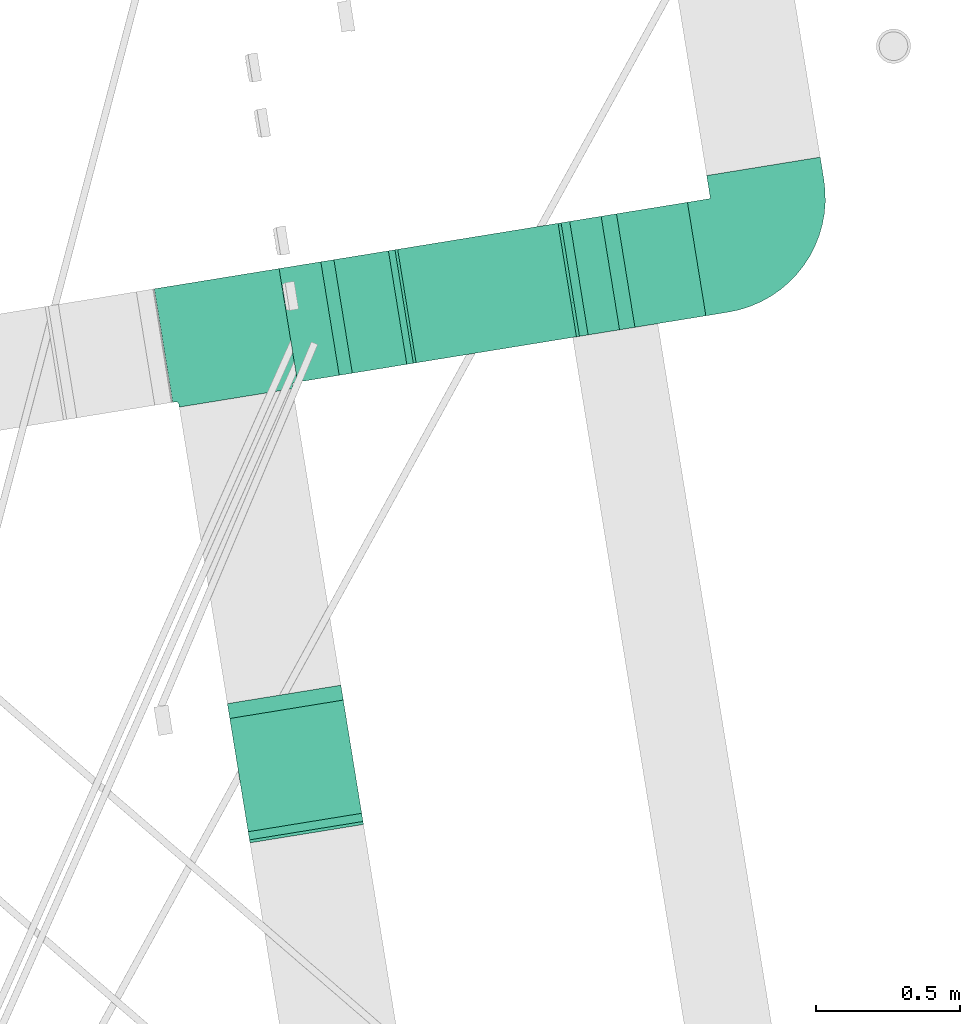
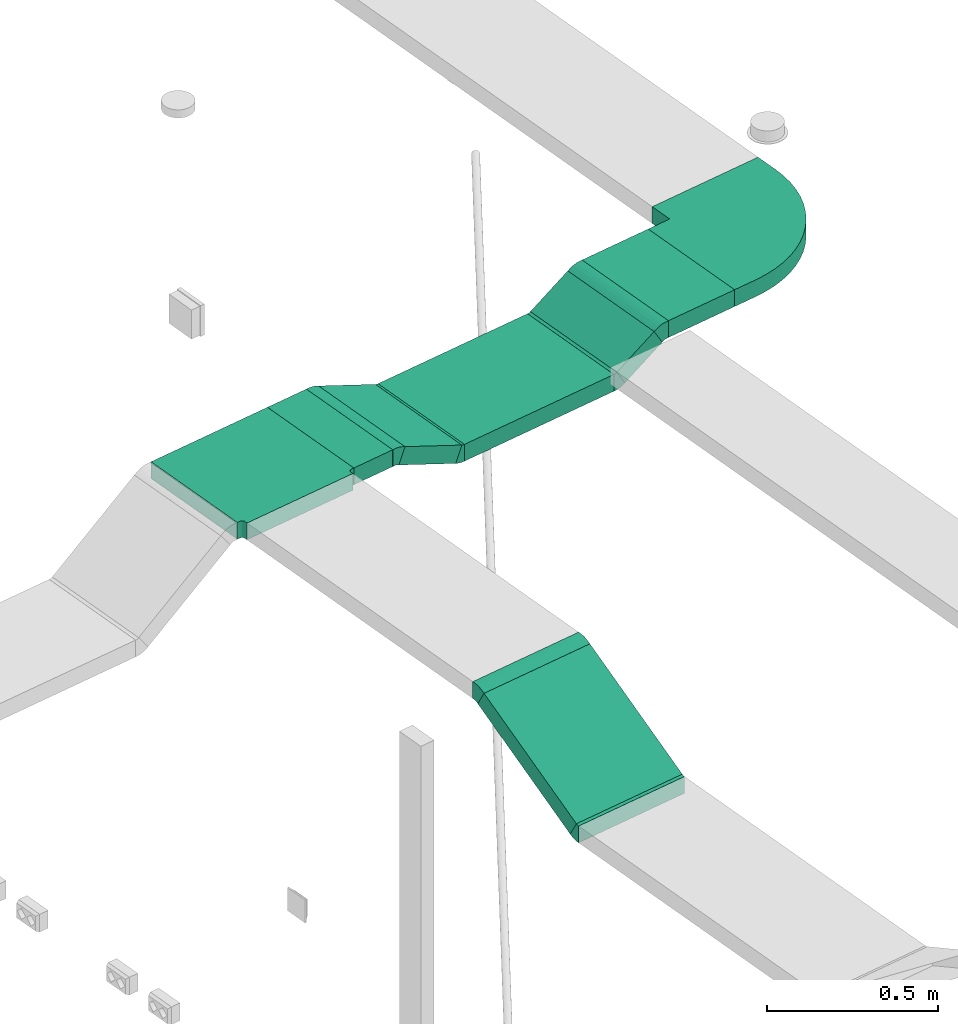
# One storey, part 4 of 33: 8 flow fittings, 6 flow segments.
"""IFC2X3 building model written with IfcOpenShell, lengths in millimetres."""

import ifcopenshell
import ifcopenshell.guid

model = None  # the IFC model being written
_history = None  # IfcOwnerHistory: only IFC2X3 demands one
_inside = {}  # id of a spatial element -> (the spatial element, [elements in it])
_under = {}  # id of a project, library or spatial element -> (it, [spatial elements below it])
_declared = {}  # id of a project -> (the project, [libraries it declares])
_typed = {}  # id of a type object -> (the type object, [elements of that type])
_made_of = {}  # id of a material, layer set ... -> (it, [elements and type objects made of it])


def new_model(schema):
    """Start an empty IFC model of exactly this schema.

    Asked for "IFC4X3", IfcOpenShell would pick the latest addendum, in which some entities
    have other attributes; the version numbers below select the first issue.
    IFC2X3 requires an IfcOwnerHistory on every rooted entity: one is made here for all.
    """
    global model, _history
    if schema == "IFC4X3":
        model = ifcopenshell.file(schema_version=(4, 3, 0, 0))
    else:
        model = ifcopenshell.file(schema=schema)
    _inside.clear()
    _under.clear()
    _declared.clear()
    _typed.clear()
    _made_of.clear()
    _history = None
    if model.schema == "IFC2X3":
        org = make("IfcOrganization", Name="unknown")
        user = make(
            "IfcPersonAndOrganization",
            ThePerson=make("IfcPerson", FamilyName="unknown"),
            TheOrganization=org,
        )
        app = make(
            "IfcApplication",
            ApplicationDeveloper=org,
            Version="unknown",
            ApplicationFullName="unknown",
            ApplicationIdentifier="unknown",
        )
        _history = make(
            "IfcOwnerHistory",
            OwningUser=user,
            OwningApplication=app,
            ChangeAction="ADDED",
            CreationDate=0,
        )
    return model


def make(cls, **values):
    """One entity of the class cls with the attributes given. An attribute that is None is left unset."""
    return model.create_entity(
        cls, **{name: value for name, value in values.items() if value is not None}
    )


def entity(cls, *values):
    """Any entity or typed value of the class cls, its attributes in the order of the schema. None: left unset."""
    e = model.create_entity(cls)
    for i, value in enumerate(values):
        if value is not None:
            e[i] = value
    return e


def rooted(cls, **values):
    """An entity with a GlobalId (a new one), such as an element, a storey or a relation."""
    return make(cls, GlobalId=ifcopenshell.guid.new(), OwnerHistory=_history, **values)


def si_unit(unit_type, name, prefix=None):
    """IfcSIUnit, for example si_unit("LENGTHUNIT", "METRE", prefix="MILLI")."""
    return make("IfcSIUnit", UnitType=unit_type, Prefix=prefix, Name=name)


def converted_unit(unit_type, name, factor, base, dimensions=None, offset=None):
    """IfcConversionBasedUnit, such as the inch: factor (a typed value) times the base unit."""
    return make(
        "IfcConversionBasedUnit"
        if offset is None
        else "IfcConversionBasedUnitWithOffset",
        ConversionOffset=offset,
        Dimensions=None
        if dimensions is None
        else entity("IfcDimensionalExponents", *dimensions),
        UnitType=unit_type,
        Name=name,
        ConversionFactor=make(
            "IfcMeasureWithUnit", ValueComponent=factor, UnitComponent=base
        ),
    )


def derived_unit(unit_type, elements):
    """IfcDerivedUnit: a product of units, each with its exponent."""
    return make(
        "IfcDerivedUnit",
        Elements=[
            make("IfcDerivedUnitElement", Unit=unit, Exponent=power)
            for unit, power in elements
        ],
        UnitType=unit_type,
    )


def assignment(units):
    """IfcUnitAssignment: the units of a project."""
    return None if units is None else make("IfcUnitAssignment", Units=units)


def point(xyz):
    """IfcCartesianPoint."""
    return None if xyz is None else make("IfcCartesianPoint", Coordinates=xyz)


def direction(xyz):
    """IfcDirection."""
    return None if xyz is None else make("IfcDirection", DirectionRatios=xyz)


def frame(location, z_axis=None, x_axis=None):
    """IfcAxis2Placement3D, a coordinate frame: its origin and axes. An axis left out is left unset."""
    return make(
        "IfcAxis2Placement3D",
        Location=point(location),
        Axis=direction(z_axis),
        RefDirection=direction(x_axis),
    )


def frame_2d(location, x_axis=None):
    """IfcAxis2Placement2D, a coordinate frame in the plane: its origin and x axis."""
    return make(
        "IfcAxis2Placement2D", Location=point(location), RefDirection=direction(x_axis)
    )


def origin():
    """The frame at (0, 0, 0) with its axes left unset."""
    return frame((0.0, 0.0, 0.0))


def origin_with_axes():
    """The frame at (0, 0, 0) with the z axis (0, 0, 1) and the x axis (1, 0, 0) written out."""
    return frame((0.0, 0.0, 0.0), z_axis=(0.0, 0.0, 1.0), x_axis=(1.0, 0.0, 0.0))


def origin_2d_with_axis():
    """The frame at (0, 0) in the plane with the x axis (1, 0) written out."""
    return frame_2d((0.0, 0.0), x_axis=(1.0, 0.0))


def place(relative_to, where):
    """IfcLocalPlacement: puts the frame where relative to a parent placement (None: the world)."""
    return make(
        "IfcLocalPlacement", PlacementRelTo=relative_to, RelativePlacement=where
    )


def context(
    kind, dimensions, precision=None, world=None, true_north=None, identifier=None
):
    """IfcGeometricRepresentationContext, for example the 3D "Model" context."""
    return make(
        "IfcGeometricRepresentationContext",
        ContextIdentifier=identifier,
        ContextType=kind,
        CoordinateSpaceDimension=dimensions,
        Precision=precision,
        WorldCoordinateSystem=world,
        TrueNorth=true_north,
    )


def subcontext(parent, identifier, kind, view, scale=None):
    """IfcGeometricRepresentationSubContext, for example "Body" below "Model"."""
    return make(
        "IfcGeometricRepresentationSubContext",
        ContextIdentifier=identifier,
        ContextType=kind,
        ParentContext=parent,
        TargetScale=scale,
        TargetView=view,
    )


def project(units=None, contexts=None):
    """IfcProject with its units and contexts."""
    return rooted(
        "IfcProject",
        Name="project",
        RepresentationContexts=contexts,
        UnitsInContext=assignment(units),
    )


def spatial(cls, under=None, at=None, **own):
    """A site, building, storey or space (cls), placed at a placement, below another one or the project."""
    s = rooted(cls, ObjectPlacement=at, **own)
    if under is not None:
        _under.setdefault(under.id(), (under, []))[1].append(s)
    return s


def polyline(points):
    """IfcPolyline through the points."""
    return make("IfcPolyline", Points=[point(p) for p in points])


def circle_curve(where, radius):
    """IfcCircle in the frame where."""
    return make("IfcCircle", Position=where, Radius=radius)


def parameter(value):
    """IfcParameterValue: where a trimmed curve begins or ends, as a parameter of its basis curve."""
    return model.create_entity("IfcParameterValue", value)


def trimmed(basis, trim1, trim2, sense, master):
    """IfcTrimmedCurve: the piece of a basis curve between two trims."""
    return make(
        "IfcTrimmedCurve",
        BasisCurve=basis,
        Trim1=trim1,
        Trim2=trim2,
        SenseAgreement=sense,
        MasterRepresentation=master,
    )


def segment(curve, same_sense, transition):
    """IfcCompositeCurveSegment."""
    return make(
        "IfcCompositeCurveSegment",
        Transition=transition,
        SameSense=same_sense,
        ParentCurve=curve,
    )


def composite_curve(segments, self_intersect=None):
    """IfcCompositeCurve: segments joined end to end."""
    return make("IfcCompositeCurve", Segments=segments, SelfIntersect=self_intersect)


def profile(cls, at=None, kind="AREA", **sizes):
    """A parametric profile (cls). Its sizes go by their IFC names, for example OverallWidth=200.0."""
    return make(cls, ProfileType=kind, Position=at, **sizes)


def rectangle(**sizes):
    """IfcRectangleProfileDef."""
    return profile("IfcRectangleProfileDef", **sizes)


def outline(outer, holes=None, kind="AREA"):
    """IfcArbitraryClosedProfileDef: a profile drawn as a closed curve; with holes, ...WithVoids."""
    if holes is None:
        return make("IfcArbitraryClosedProfileDef", ProfileType=kind, OuterCurve=outer)
    return make(
        "IfcArbitraryProfileDefWithVoids",
        ProfileType=kind,
        OuterCurve=outer,
        InnerCurves=holes,
    )


def extrude(swept, where, along, depth):
    """IfcExtrudedAreaSolid: the profile swept, set in the frame where, extruded along a direction by depth."""
    return make(
        "IfcExtrudedAreaSolid",
        SweptArea=swept,
        Position=where,
        ExtrudedDirection=direction(along),
        Depth=depth,
    )


def shape(context_of_items, identifier, shape_type, items):
    """IfcShapeRepresentation: the items that make up one representation, for example the "Body"."""
    return make(
        "IfcShapeRepresentation",
        ContextOfItems=context_of_items,
        RepresentationIdentifier=identifier,
        RepresentationType=shape_type,
        Items=items,
    )


def source(mapping_origin, context_of_items, identifier, shape_type, items):
    """IfcRepresentationMap: a shape defined once, which mapped items show again and again."""
    return make(
        "IfcRepresentationMap",
        MappingOrigin=mapping_origin,
        MappedRepresentation=shape(context_of_items, identifier, shape_type, items),
    )


def transform(
    local_origin,
    x_axis=None,
    y_axis=None,
    z_axis=None,
    scale=None,
    scale2=None,
    scale3=None,
    uniform=True,
):
    """IfcCartesianTransformationOperator3D, or its non-uniform kind. x_axis, y_axis, z_axis: its Axis1, 2, 3."""
    if uniform:
        return make(
            "IfcCartesianTransformationOperator3D",
            Axis1=direction(x_axis),
            Axis2=direction(y_axis),
            LocalOrigin=point(local_origin),
            Scale=scale,
            Axis3=direction(z_axis),
        )
    return make(
        "IfcCartesianTransformationOperator3DnonUniform",
        Axis1=direction(x_axis),
        Axis2=direction(y_axis),
        LocalOrigin=point(local_origin),
        Scale=scale,
        Axis3=direction(z_axis),
        Scale2=scale2,
        Scale3=scale3,
    )


def mapped(mapping_source, mapping_target):
    """IfcMappedItem: shows the shape of a source again, moved by a transform."""
    return make(
        "IfcMappedItem", MappingSource=mapping_source, MappingTarget=mapping_target
    )


def material(Name=None, Category=None):
    """IfcMaterial."""
    return make("IfcMaterial", Name=Name, Category=Category)


def made_of(thing, what):
    """Note that an element or type object is made of a material, layer set ...; save() writes the relation."""
    if what is not None:
        _made_of.setdefault(what.id(), (what, []))[1].append(thing)
    return thing


def type_object(cls, material=None, **own):
    """A type object (cls), such as IfcWallType, which elements share."""
    return made_of(rooted(cls, **own), material)


def element(
    cls,
    number,
    at=None,
    inside=None,
    cuts=None,
    type_object=None,
    material=None,
    context=None,
    identifier="Body",
    shape_type=None,
    held_by="IfcProductDefinitionShape",
    body=None,
    shapes=None,
    **own,
):
    """One element of the class cls, such as IfcWall. Its Tag is "e" and its number.

    at: its placement. inside: the storey or other place that contains it. cuts: it is an
    opening in that element (IfcRelVoidsElement). A single representation is given by context,
    identifier, shape_type and body (its items); several are given by shapes. held_by: the class
    of the entity that holds the representations. save() writes the other relations.
    """
    e = rooted(cls, Tag="e%d" % number, ObjectPlacement=at, **own)
    if body is not None:
        shapes = [shape(context, identifier, shape_type, body)]
    if shapes is not None:
        e.Representation = make(held_by, Representations=shapes)
    if inside is not None:
        _inside.setdefault(inside.id(), (inside, []))[1].append(e)
    if cuts is not None:
        rooted(
            "IfcRelVoidsElement", RelatingBuildingElement=cuts, RelatedOpeningElement=e
        )
    if type_object is not None:
        _typed.setdefault(type_object.id(), (type_object, []))[1].append(e)
    return made_of(e, material)


def aggregate(whole, parts):
    """IfcRelAggregates: a whole, such as a stair, and the parts it consists of."""
    return rooted("IfcRelAggregates", RelatingObject=whole, RelatedObjects=parts)


def save(model, path):
    """Write the relations noted so far, then the file.

    IfcRelAggregates (storeys below a building ...), IfcRelContainedInSpatialStructure (elements
    in a storey), IfcRelDefinesByType, IfcRelAssociatesMaterial and IfcRelDeclares: one each for
    every whole, place, type object, material and project.
    """
    for whole, parts in _under.values():
        aggregate(whole, parts)
    for where, things in _inside.values():
        rooted(
            "IfcRelContainedInSpatialStructure",
            RelatedElements=things,
            RelatingStructure=where,
        )
    for kind, things in _typed.values():
        rooted("IfcRelDefinesByType", RelatedObjects=things, RelatingType=kind)
    for what, things in _made_of.values():
        rooted("IfcRelAssociatesMaterial", RelatedObjects=things, RelatingMaterial=what)
    for by, libraries in _declared.values():
        rooted("IfcRelDeclares", RelatingContext=by, RelatedDefinitions=libraries)
    model.write(path)


model = new_model("IFC2X3")

# Units and contexts
plan_context = context("Plan", 3, precision=1e-05, world=origin_with_axes())
model_context = context("Model", 3, precision=0.01, world=origin(), true_north=direction((6.12323399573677e-17, 1.0)))
body_context = subcontext(model_context, "Body", "Model", "MODEL_VIEW")
ifc_project = project(units=[converted_unit("PLANEANGLEUNIT", "DEGREE", entity("IfcPositiveLengthMeasure", 0.0174532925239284), si_unit("PLANEANGLEUNIT", "RADIAN"), dimensions=[0, 0, 0, 0, 0, 0, 0]), si_unit("AREAUNIT", "SQUARE_METRE"), si_unit("LENGTHUNIT", "METRE", prefix="MILLI"), si_unit("MASSUNIT", "GRAM", prefix="KILO"), si_unit("POWERUNIT", "WATT"), si_unit("PRESSUREUNIT", "PASCAL", prefix="KILO"), si_unit("FORCEUNIT", "NEWTON", prefix="KILO"), si_unit("ELECTRICVOLTAGEUNIT", "VOLT"), si_unit("ELECTRICCURRENTUNIT", "AMPERE"), si_unit("THERMODYNAMICTEMPERATUREUNIT", "DEGREE_CELSIUS"), si_unit("TIMEUNIT", "SECOND"), si_unit("VOLUMEUNIT", "CUBIC_METRE"), derived_unit("LINEARVELOCITYUNIT", [(si_unit("LENGTHUNIT", "METRE"), 1), (si_unit("TIMEUNIT", "SECOND"), -1)]), derived_unit("VOLUMETRICFLOWRATEUNIT", [(si_unit("VOLUMEUNIT", "CUBIC_METRE"), 1), (si_unit("TIMEUNIT", "SECOND"), -1)]), derived_unit("THERMALTRANSMITTANCEUNIT", [(si_unit("POWERUNIT", "WATT"), 1), (si_unit("THERMODYNAMICTEMPERATUREUNIT", "KELVIN"), -1), (si_unit("AREAUNIT", "SQUARE_METRE"), -1)]), derived_unit("SOUNDPRESSUREUNIT", [(si_unit("PRESSUREUNIT", "PASCAL"), 1)])], contexts=[model_context, plan_context])

# Site, building, storey
site_placement = place(None, frame((-0.219946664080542, 0.12226179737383, 0.0), z_axis=(0.0, 0.0, 1.0), x_axis=(-0.160236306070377, 0.987078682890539, 0.0)))
site = spatial("IfcSite", under=ifc_project, at=site_placement, Name="Default", CompositionType="ELEMENT")
building_placement = place(site_placement, origin_with_axes())
building = spatial("IfcBuilding", under=site, at=building_placement, CompositionType="ELEMENT")
storey_placement = place(building_placement, frame((0.0, 0.0, 59000.0), z_axis=(0.0, 0.0, 1.0), x_axis=(1.0, 0.0, 0.0)))
storey = spatial("IfcBuildingStorey", under=building, at=storey_placement, Name="Nivå F", CompositionType="ELEMENT", Elevation=59000.0)

# Flow fittings
ifc_material = material(Name="<Unnamed>")
cable_carrier_fitting_type_1 = type_object("IfcCableCarrierFittingType", Name="M_Ladder Horizontal Bend:Standard", PredefinedType="NOTDEFINED", material=ifc_material)
shared_shape_1 = source(origin(), body_context, "Body", "SweptSolid", [
    extrude(outline(composite_curve([segment(polyline([(-160.500000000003, -320.499999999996), (-80.5000000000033, -320.499999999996)]), True, "CONTINUOUS"), segment(trimmed(circle_curve(frame_2d((-80.4999999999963, 80.5000000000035), x_axis=(0.0, -1.0)), 401.0), [parameter(0.0)], [parameter(90.0)], True, "PARAMETER"), True, "CONTINUOUS"), segment(polyline([(320.500000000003, 80.4999999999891), (320.500000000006, 160.499999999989)]), True, "CONTINUOUS"), segment(polyline([(320.500000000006, 160.499999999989), (-79.4999999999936, 160.500000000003)]), True, "CONTINUOUS"), segment(polyline([(-79.4999999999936, 160.500000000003), (-79.4999999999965, 80.5000000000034)]), True, "CONTINUOUS"), segment(trimmed(circle_curve(frame_2d((-80.4999999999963, 80.5000000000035), x_axis=(0.0, -1.0)), 0.999999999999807), [parameter(0.0)], [parameter(90.0)], True, "PARAMETER"), False, "CONTINUOUS"), segment(polyline([(-80.5000000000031, 79.5000000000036), (-160.500000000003, 79.5000000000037)]), True, "CONTINUOUS"), segment(polyline([(-160.500000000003, 79.5000000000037), (-160.500000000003, -320.499999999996)]), True, "CONTINUOUS")], self_intersect=False)), frame((-120.499999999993, 120.499999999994, -30.0)), (0.0, 0.0, 1.0), 60.0000000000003),
])
flow_fitting_1_placement = place(storey_placement, frame((775476.560546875, -506177.487792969, 2900.0), z_axis=(0.0, 0.0, 1.0), x_axis=(0.0, -1.0, 0.0)))
element("IfcFlowFitting", 1, at=flow_fitting_1_placement, inside=storey, type_object=cable_carrier_fitting_type_1, material=ifc_material, Name="M_Ladder Horizontal Bend:Standard", ObjectType="M_Ladder Horizontal Bend:Standard", context=body_context, shape_type="MappedRepresentation", body=[
    mapped(shared_shape_1, transform((0.0, 0.0, 0.0), scale=1.0)),
])
cable_carrier_fitting_type_2 = type_object("IfcCableCarrierFittingType", Name="MC_Ladder Horizontal Tee:10mm Radius", PredefinedType="NOTDEFINED", material=ifc_material)
shared_shape_2 = source(origin(), body_context, "Body", "SweptSolid", [
    extrude(outline(composite_curve([segment(polyline([(84.0, -200.0), (94.0, -200.0)]), True, "CONTINUOUS"), segment(polyline([(94.0, -200.0), (94.0, 200.0)]), True, "CONTINUOUS"), segment(polyline([(94.0, 200.0), (84.0, 200.0)]), True, "CONTINUOUS"), segment(trimmed(circle_curve(frame_2d((84.0, 210.0), x_axis=(0.0, 1.0)), 10.0), [parameter(89.9999999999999)], [parameter(180.0)], True, "PARAMETER"), False, "CONTINUOUS"), segment(polyline([(74.0, 210.0), (74.0, 220.0)]), True, "CONTINUOUS"), segment(polyline([(74.0, 220.0), (-326.0, 220.0)]), True, "CONTINUOUS"), segment(polyline([(-326.0, 220.0), (-326.0, -220.0)]), True, "CONTINUOUS"), segment(polyline([(-326.0, -220.0), (74.0, -220.0)]), True, "CONTINUOUS"), segment(polyline([(74.0, -220.0), (74.0, -210.0)]), True, "CONTINUOUS"), segment(trimmed(circle_curve(frame_2d((84.0, -210.0), x_axis=(0.0, 1.0)), 10.0), [parameter(360.0)], [parameter(89.9999999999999)], True, "PARAMETER"), False, "CONTINUOUS")], self_intersect=False)), frame((0.0, -126.0, -30.0), z_axis=(0.0, 0.0, 1.0), x_axis=(0.0, -1.0, 0.0)), (0.0, 0.0, 1.0), 60.0),
])
flow_fitting_2_placement = place(storey_placement, frame((775476.560546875, -504237.483203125, 2900.0), z_axis=(0.0, 0.0, 1.0), x_axis=(0.0, -1.0, 0.0)))
element("IfcFlowFitting", 2, at=flow_fitting_2_placement, inside=storey, type_object=cable_carrier_fitting_type_2, material=ifc_material, Name="MC_Ladder Horizontal Tee:10mm Radius", ObjectType="MC_Ladder Horizontal Tee:10mm Radius", context=body_context, shape_type="MappedRepresentation", body=[
    mapped(shared_shape_2, transform((0.0, 0.0, 0.0), scale=1.0)),
])
cable_carrier_fitting_type_3 = type_object("IfcCableCarrierFittingType", Name="MC_Ladder Vertical Outside Bend:Standard 10mm", PredefinedType="NOTDEFINED", material=ifc_material)
shared_shape_3 = source(origin(), body_context, "Body", "SweptSolid", [
    extrude(outline(composite_curve([segment(polyline([(-19.2895671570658, -33.6520305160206), (-9.28956715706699, -33.6520305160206)]), True, "CONTINUOUS"), segment(trimmed(circle_curve(frame_2d((-9.28956715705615, 36.347969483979), x_axis=(0.0, -1.0)), 69.9999999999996), [parameter(0.0)], [parameter(28.6727696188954)], True, "PARAMETER"), True, "CONTINUOUS"), segment(polyline([(24.2968928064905, -25.0682312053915), (33.0706357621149, -20.2701654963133)]), True, "CONTINUOUS"), segment(polyline([(33.0706357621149, -20.2701654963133), (4.28224150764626, 32.3722922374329)]), True, "CONTINUOUS"), segment(polyline([(4.28224150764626, 32.3722922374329), (-4.49150144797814, 27.5742265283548)]), True, "CONTINUOUS"), segment(trimmed(circle_curve(frame_2d((-9.28956715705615, 36.347969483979), x_axis=(0.0, -1.0)), 9.99999999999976), [parameter(0.0)], [parameter(28.6727696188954)], True, "PARAMETER"), False, "CONTINUOUS"), segment(polyline([(-9.28956715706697, 26.3479694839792), (-19.2895671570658, 26.3479694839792)]), True, "CONTINUOUS"), segment(polyline([(-19.2895671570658, 26.3479694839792), (-19.2895671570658, -33.6520305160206)]), True, "CONTINUOUS")], self_intersect=False)), frame((-0.933361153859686, 3.65203051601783, -200.0)), (0.0, 0.0, 1.0), 400.0),
])
flow_fitting_3_placement = place(storey_placement, frame((774191.436127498, -504237.483203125, 2900.0), z_axis=(0.0, -1.0, 0.0), x_axis=(-1.0, 0.0, 0.0)))
element("IfcFlowFitting", 3, at=flow_fitting_3_placement, inside=storey, type_object=cable_carrier_fitting_type_3, material=ifc_material, Name="MC_Ladder Vertical Outside Bend:Standard 10mm", ObjectType="MC_Ladder Vertical Outside Bend:Standard 10mm", context=body_context, shape_type="MappedRepresentation", body=[
    mapped(shared_shape_3, transform((0.0, 0.0, 0.0), scale=1.0)),
])
cable_carrier_fitting_type_4 = type_object("IfcCableCarrierFittingType", Name="MC_Ladder Vertical Inside Bend_Short:Standard 10mm", PredefinedType="NOTDEFINED", material=ifc_material)
shared_shape_4 = source(origin(), body_context, "Body", "SweptSolid", [
    extrude(outline(composite_curve([segment(polyline([(-12.5041621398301, -32.8123690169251), (-9.5041621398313, -32.8123690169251)]), True, "CONTINUOUS"), segment(trimmed(circle_curve(frame_2d((-9.50416213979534, 37.1876309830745), x_axis=(0.0, -1.0)), 69.9999999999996), [parameter(0.0)], [parameter(28.6727696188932)], True, "PARAMETER"), True, "CONTINUOUS"), segment(polyline([(24.0822978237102, -24.2285697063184), (26.7144207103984, -22.7891499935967)]), True, "CONTINUOUS"), segment(polyline([(26.7144207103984, -22.7891499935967), (-2.07397354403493, 29.8533077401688)]), True, "CONTINUOUS"), segment(polyline([(-2.07397354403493, 29.8533077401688), (-4.70609643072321, 28.4138880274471)]), True, "CONTINUOUS"), segment(trimmed(circle_curve(frame_2d((-9.50416213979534, 37.1876309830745), x_axis=(0.0, -1.0)), 9.99999999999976), [parameter(0.0)], [parameter(28.6727696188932)], True, "PARAMETER"), False, "CONTINUOUS"), segment(polyline([(-9.50416213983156, 27.1876309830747), (-12.5041621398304, 27.1876309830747)]), True, "CONTINUOUS"), segment(polyline([(-12.5041621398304, 27.1876309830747), (-12.5041621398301, -32.8123690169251)]), True, "CONTINUOUS")], self_intersect=False)), frame((-0.718766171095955, 2.81236901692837, -200.0)), (0.0, 0.0, 1.0), 400.0),
])
flow_fitting_4_placement = place(storey_placement, frame((773734.286127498, -504237.483203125, 2650.0), z_axis=(0.0, -1.0, 0.0), x_axis=(1.0, 0.0, 0.0)))
element("IfcFlowFitting", 4, at=flow_fitting_4_placement, inside=storey, type_object=cable_carrier_fitting_type_4, material=ifc_material, Name="MC_Ladder Vertical Inside Bend_Short:Standard 10mm", ObjectType="MC_Ladder Vertical Inside Bend_Short:Standard 10mm", context=body_context, shape_type="MappedRepresentation", body=[
    mapped(shared_shape_4, transform((0.0, 0.0, 0.0), scale=1.0)),
])
cable_carrier_fitting_type_5 = type_object("IfcCableCarrierFittingType", Name="MC_Ladder Vertical Outside Bend:Standard 10mm", PredefinedType="NOTDEFINED", material=ifc_material)
shared_shape_5 = source(origin(), body_context, "Body", "SweptSolid", [
    extrude(outline(composite_curve([segment(polyline([(-19.7964043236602, -34.0297639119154), (-9.79640432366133, -34.0297639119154)]), True, "CONTINUOUS"), segment(trimmed(circle_curve(frame_2d((-9.7964043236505, 35.9702360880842), x_axis=(0.0, -1.0)), 69.9999999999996), [parameter(0.0)], [parameter(30.4697289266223)], True, "PARAMETER"), True, "CONTINUOUS"), segment(polyline([(25.6994104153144, -24.3625670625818), (34.3183822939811, -19.2917363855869)]), True, "CONTINUOUS"), segment(polyline([(34.3183822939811, -19.2917363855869), (3.89339823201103, 32.4220948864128)]), True, "CONTINUOUS"), segment(polyline([(3.89339823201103, 32.4220948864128), (-4.72557364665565, 27.3512642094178)]), True, "CONTINUOUS"), segment(trimmed(circle_curve(frame_2d((-9.7964043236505, 35.9702360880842), x_axis=(0.0, -1.0)), 9.99999999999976), [parameter(0.0)], [parameter(30.4697289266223)], True, "PARAMETER"), False, "CONTINUOUS"), segment(polyline([(-9.79640432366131, 25.9702360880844), (-19.7964043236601, 25.9702360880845)]), True, "CONTINUOUS"), segment(polyline([(-19.7964043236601, 25.9702360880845), (-19.7964043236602, -34.0297639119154)]), True, "CONTINUOUS")], self_intersect=False)), frame((-1.09749617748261, 4.02976391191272, -200.0)), (0.0, 0.0, 1.0), 400.0),
])
flow_fitting_5_placement = place(storey_placement, frame((775476.560546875, -505625.593892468, 2900.0), z_axis=(-1.0, 0.0, 0.0), x_axis=(0.0, 1.0, 0.0)))
element("IfcFlowFitting", 5, at=flow_fitting_5_placement, inside=storey, type_object=cable_carrier_fitting_type_5, material=ifc_material, Name="MC_Ladder Vertical Outside Bend:Standard 10mm", ObjectType="MC_Ladder Vertical Outside Bend:Standard 10mm", context=body_context, shape_type="MappedRepresentation", body=[
    mapped(shared_shape_5, transform((0.0, 0.0, 0.0), scale=1.0)),
])
cable_carrier_fitting_type_6 = type_object("IfcCableCarrierFittingType", Name="MC_Ladder Vertical Inside Bend_Short:Standard 10mm", PredefinedType="NOTDEFINED", material=ifc_material)
shared_shape_6 = source(origin(), body_context, "Body", "SweptSolid", [
    extrude(outline(composite_curve([segment(polyline([(-13.0380842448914, -33.1423685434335), (-10.0380842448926, -33.1423685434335)]), True, "CONTINUOUS"), segment(trimmed(circle_curve(frame_2d((-10.0380842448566, 36.8576314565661), x_axis=(0.0, -1.0)), 69.9999999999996), [parameter(0.0)], [parameter(30.4697289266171)], True, "PARAMETER"), True, "CONTINUOUS"), segment(polyline([(25.4577304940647, -23.4751716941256), (28.0434220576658, -21.953922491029)]), True, "CONTINUOUS"), segment(polyline([(28.0434220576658, -21.953922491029), (-2.38156200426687, 29.7599087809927)]), True, "CONTINUOUS"), segment(polyline([(-2.38156200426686, 29.7599087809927), (-4.96725356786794, 28.238659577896)]), True, "CONTINUOUS"), segment(trimmed(circle_curve(frame_2d((-10.0380842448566, 36.8576314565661), x_axis=(0.0, -1.0)), 9.99999999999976), [parameter(0.0)], [parameter(30.4697289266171)], True, "PARAMETER"), False, "CONTINUOUS"), segment(polyline([(-10.0380842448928, 26.8576314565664), (-13.0380842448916, 26.8576314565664)]), True, "CONTINUOUS"), segment(polyline([(-13.0380842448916, 26.8576314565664), (-13.0380842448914, -33.1423685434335)]), True, "CONTINUOUS")], self_intersect=False)), frame((-0.855816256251, 3.1423685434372, -200.0)), (0.0, 0.0, 1.0), 400.0),
])
flow_fitting_6_placement = place(storey_placement, frame((775476.560546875, -505454.405395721, 2799.28405695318), z_axis=(1.0, -2.39224525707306e-17, 1.40743824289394e-17), x_axis=(2.77555756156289e-17, 0.861897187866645, -0.507083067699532)))
element("IfcFlowFitting", 6, at=flow_fitting_6_placement, inside=storey, type_object=cable_carrier_fitting_type_6, material=ifc_material, Name="MC_Ladder Vertical Inside Bend_Short:Standard 10mm", ObjectType="MC_Ladder Vertical Inside Bend_Short:Standard 10mm", context=body_context, shape_type="MappedRepresentation", body=[
    mapped(shared_shape_6, transform((0.0, 0.0, 0.0), scale=1.0)),
])
cable_carrier_fitting_type_7 = type_object("IfcCableCarrierFittingType", Name="MC_Ladder Vertical Outside Bend:Standard 10mm", PredefinedType="NOTDEFINED", material=ifc_material)
shared_shape_7 = source(origin(), body_context, "Body", "SweptSolid", [
    extrude(outline(composite_curve([segment(polyline([(-17.4947616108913, -32.4970076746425), (-7.4947616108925, -32.4970076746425)]), True, "CONTINUOUS"), segment(trimmed(circle_curve(frame_2d((-7.49476161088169, 37.5029923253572), x_axis=(0.0, -1.0)), 69.9999999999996), [parameter(0.0)], [parameter(22.6027156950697)], True, "PARAMETER"), True, "CONTINUOUS"), segment(polyline([(19.4089740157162, -27.1204477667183), (28.6408940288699, -23.2770569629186)]), True, "CONTINUOUS"), segment(polyline([(28.6408940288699, -23.2770569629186), (5.58054920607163, 32.1144631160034)]), True, "CONTINUOUS"), segment(polyline([(5.58054920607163, 32.1144631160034), (-3.65137080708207, 28.2710723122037)]), True, "CONTINUOUS"), segment(trimmed(circle_curve(frame_2d((-7.49476161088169, 37.5029923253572), x_axis=(0.0, -1.0)), 9.99999999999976), [parameter(0.0)], [parameter(22.6027156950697)], True, "PARAMETER"), False, "CONTINUOUS"), segment(polyline([(-7.4947616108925, 27.5029923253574), (-17.4947616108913, 27.5029923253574)]), True, "CONTINUOUS"), segment(polyline([(-17.4947616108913, 27.5029923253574), (-17.4947616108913, -32.4970076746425)]), True, "CONTINUOUS")], self_intersect=False)), frame((-0.499012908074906, 2.49700767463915, -200.0)), (0.0, 0.0, 1.0), 400.0),
])
flow_fitting_7_placement = place(storey_placement, frame((775476.560546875, -504622.483203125, 2900.0), z_axis=(1.0, 0.0, 0.0), x_axis=(0.0, -1.0, 0.0)))
element("IfcFlowFitting", 7, at=flow_fitting_7_placement, inside=storey, type_object=cable_carrier_fitting_type_7, material=ifc_material, Name="MC_Ladder Vertical Outside Bend:Standard 10mm", ObjectType="MC_Ladder Vertical Outside Bend:Standard 10mm", context=body_context, shape_type="MappedRepresentation", body=[
    mapped(shared_shape_7, transform((0.0, 0.0, 0.0), scale=1.0)),
])
cable_carrier_fitting_type_8 = type_object("IfcCableCarrierFittingType", Name="MC_Ladder Vertical Inside Bend_Short:Standard 10mm", PredefinedType="NOTDEFINED", material=ifc_material)
shared_shape_8 = source(origin(), body_context, "Body", "SweptSolid", [
    extrude(outline(composite_curve([segment(polyline([(-10.6291756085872, -31.8244142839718), (-7.62917560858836, -31.8244142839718)]), True, "CONTINUOUS"), segment(trimmed(circle_curve(frame_2d((-7.6291756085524, 38.1755857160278), x_axis=(0.0, -1.0)), 69.9999999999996), [parameter(0.0)], [parameter(22.6027156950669)], True, "PARAMETER"), True, "CONTINUOUS"), segment(polyline([(19.2745600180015, -26.447854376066), (22.0441360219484, -25.294837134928)]), True, "CONTINUOUS"), segment(polyline([(22.0441360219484, -25.294837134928), (-1.01620880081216, 30.0966829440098)]), True, "CONTINUOUS"), segment(polyline([(-1.01620880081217, 30.0966829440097), (-3.78578480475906, 28.9436657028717)]), True, "CONTINUOUS"), segment(trimmed(circle_curve(frame_2d((-7.6291756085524, 38.1755857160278), x_axis=(0.0, -1.0)), 9.99999999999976), [parameter(0.0)], [parameter(22.6027156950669)], True, "PARAMETER"), False, "CONTINUOUS"), segment(polyline([(-7.62917560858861, 28.1755857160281), (-10.6291756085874, 28.175585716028)]), True, "CONTINUOUS"), segment(polyline([(-10.6291756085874, 28.175585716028), (-10.6291756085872, -31.8244142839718)]), True, "CONTINUOUS")], self_intersect=False)), frame((-0.364598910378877, 1.82441428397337, -200.0)), (0.0, 0.0, 1.0), 400.0),
])
flow_fitting_8_placement = place(storey_placement, frame((775476.560546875, -504864.405395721, 2799.28405695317), z_axis=(1.0, 0.0, 0.0), x_axis=(0.0, 1.0, 0.0)))
element("IfcFlowFitting", 8, at=flow_fitting_8_placement, inside=storey, type_object=cable_carrier_fitting_type_8, material=ifc_material, Name="MC_Ladder Vertical Inside Bend_Short:Standard 10mm", ObjectType="MC_Ladder Vertical Inside Bend_Short:Standard 10mm", context=body_context, shape_type="MappedRepresentation", body=[
    mapped(shared_shape_8, transform((0.0, 0.0, 0.0), scale=1.0)),
])

# Flow segments
cable_carrier_segment_type = type_object("IfcCableCarrierSegmentType", Name="Cable Tray with Fittings:Kabelbro", PredefinedType="CABLETRAYSEGMENT")
flow_segment_1_placement = place(storey_placement, origin_with_axes())
element("IfcFlowSegment", 9, at=flow_segment_1_placement, inside=storey, type_object=cable_carrier_segment_type, Name="Cable Tray with Fittings:Kabelbro", ObjectType="Cable Tray with Fittings:Kabelbro", context=body_context, shape_type="SweptSolid", body=[
    extrude(rectangle(XDim=147.006225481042, YDim=399.999999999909, at=frame_2d((-3.46531692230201e-11, 0.0), x_axis=(1.0, 0.0))), frame((775476.560546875, -504530.986315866, 2870.0), z_axis=(0.0, 0.0, 1.0), x_axis=(0.0, -1.0, 0.0)), (0.0, 0.0, 1.0), 60.0000000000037),
])
flow_segment_2_placement = place(storey_placement, origin_with_axes())
element("IfcFlowSegment", 10, at=flow_segment_2_placement, inside=storey, type_object=cable_carrier_segment_type, Name="Cable Tray with Fittings:Kabelbro", ObjectType="Cable Tray with Fittings:Kabelbro", context=body_context, shape_type="SweptSolid", body=[
    extrude(rectangle(XDim=59.9999999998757, YDim=400.000000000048, at=origin_2d_with_axis()), frame((773745.88758491, -504237.483203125, 2656.34444789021), z_axis=(0.877374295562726, 0.0, 0.479806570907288), x_axis=(-0.479806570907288, 0.0, 0.877374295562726)), (0.0, 0.0, 1.0), 487.597445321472),
])
flow_segment_3_placement = place(storey_placement, origin_with_axes())
element("IfcFlowSegment", 11, at=flow_segment_3_placement, inside=storey, type_object=cable_carrier_segment_type, Name="Cable Tray with Fittings:Kabelbro", ObjectType="Cable Tray with Fittings:Kabelbro", context=body_context, shape_type="SweptSolid", body=[
    extrude(rectangle(XDim=249.999999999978, YDim=399.999999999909, at=origin_2d_with_axis()), frame((775476.560546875, -505771.487792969, 2870.0), z_axis=(0.0, 0.0, 1.0), x_axis=(0.0, -1.0, 0.0)), (0.0, 0.0, 1.0), 60.0000000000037),
])
flow_segment_4_placement = place(storey_placement, origin_with_axes())
element("IfcFlowSegment", 12, at=flow_segment_4_placement, inside=storey, type_object=cable_carrier_segment_type, Name="Cable Tray with Fittings:Kabelbro", ObjectType="Cable Tray with Fittings:Kabelbro", context=body_context, shape_type="SweptSolid", body=[
    extrude(rectangle(XDim=565.112324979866, YDim=399.999999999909, at=frame_2d((3.46460637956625e-11, 0.0), x_axis=(1.0, 0.0))), frame((775476.560546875, -505157.95533273, 2769.28405695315), z_axis=(0.0, 0.0, 1.0), x_axis=(0.0, 1.0, 0.0)), (0.0, 0.0, 1.0), 60.0000000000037),
])
flow_segment_5_placement = place(storey_placement, origin_with_axes())
element("IfcFlowSegment", 13, at=flow_segment_5_placement, inside=storey, type_object=cable_carrier_segment_type, Name="Cable Tray with Fittings:Kabelbro", ObjectType="Cable Tray with Fittings:Kabelbro", context=body_context, shape_type="SweptSolid", body=[
    extrude(rectangle(XDim=60.0000000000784, YDim=163.830432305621, at=frame_2d((2.18847162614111e-12, -3.73212571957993e-12), x_axis=(0.0, 1.0))), frame((775276.560546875, -505536.983003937, 2847.86723773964), z_axis=(1.0, 0.0, 0.0), x_axis=(0.0, 0.861897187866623, -0.507083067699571)), (0.0, 0.0, 1.0), 399.999999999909),
])
flow_segment_6_placement = place(storey_placement, origin_with_axes())
element("IfcFlowSegment", 14, at=flow_segment_6_placement, inside=storey, type_object=cable_carrier_segment_type, Name="Cable Tray with Fittings:Kabelbro", ObjectType="Cable Tray with Fittings:Kabelbro", context=body_context, shape_type="SweptSolid", body=[
    extrude(rectangle(XDim=59.9999999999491, YDim=233.062157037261, at=frame_2d((0.0, 0.0), x_axis=(0.0, 1.0))), frame((775276.560546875, -504746.675471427, 2848.29684169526), z_axis=(1.0, 0.0, 0.0), x_axis=(0.0, -0.923192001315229, -0.384339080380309)), (0.0, 0.0, 1.0), 399.999999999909),
])

save(model, "model.ifc")
